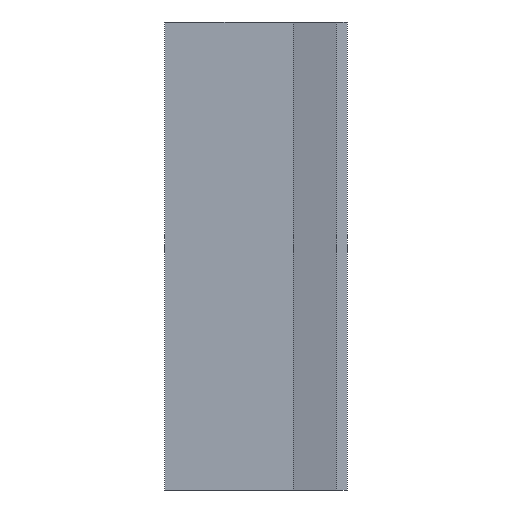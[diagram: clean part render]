
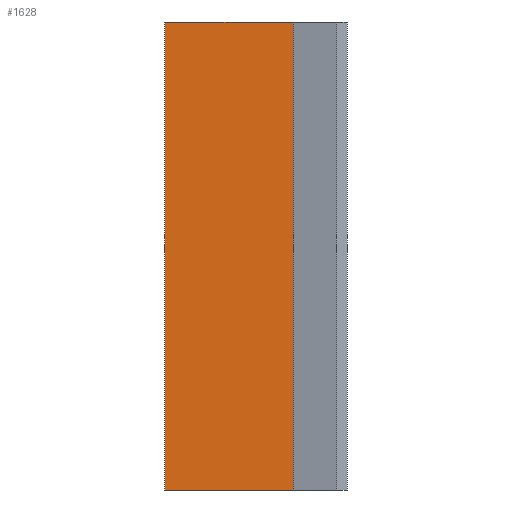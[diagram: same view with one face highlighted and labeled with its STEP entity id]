
A CAD part, left-side view. The second image highlights one B-rep face of the part: STEP entity #1628.
In plain terms, the highlighted planar face has unit normal (-1, 0, 0).
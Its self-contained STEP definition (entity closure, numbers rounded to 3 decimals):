
#90=FACE_OUTER_BOUND('',#171,.T.);
#171=EDGE_LOOP('',(#1369,#1370,#1371,#1372));
#336=LINE('',#2426,#564);
#374=LINE('',#2501,#602);
#396=LINE('',#2545,#624);
#397=LINE('',#2546,#625);
#564=VECTOR('',#1979,10.);
#602=VECTOR('',#2035,10.);
#624=VECTOR('',#2081,10.);
#625=VECTOR('',#2082,10.);
#745=VERTEX_POINT('',#2423);
#746=VERTEX_POINT('',#2425);
#774=VERTEX_POINT('',#2499);
#784=VERTEX_POINT('',#2544);
#944=EDGE_CURVE('',#745,#746,#336,.T.);
#982=EDGE_CURVE('',#746,#774,#374,.T.);
#1004=EDGE_CURVE('',#784,#745,#396,.T.);
#1005=EDGE_CURVE('',#774,#784,#397,.T.);
#1369=ORIENTED_EDGE('',*,*,#1004,.F.);
#1370=ORIENTED_EDGE('',*,*,#1005,.F.);
#1371=ORIENTED_EDGE('',*,*,#982,.F.);
#1372=ORIENTED_EDGE('',*,*,#944,.F.);
#1547=PLANE('',#1711);
#1628=ADVANCED_FACE('',(#90),#1547,.T.);
#1711=AXIS2_PLACEMENT_3D('',#2543,#2079,#2080);
#1979=DIRECTION('',(0.,-1.,0.));
#2035=DIRECTION('',(0.,0.,-1.));
#2079=DIRECTION('center_axis',(-1.,0.,0.));
#2080=DIRECTION('ref_axis',(0.,0.,1.));
#2081=DIRECTION('',(0.,0.,1.));
#2082=DIRECTION('',(0.,1.,0.));
#2423=CARTESIAN_POINT('',(-5.,5.5,20.));
#2425=CARTESIAN_POINT('',(-5.,0.,20.));
#2426=CARTESIAN_POINT('',(-5.,4.,20.));
#2499=CARTESIAN_POINT('',(-5.,0.,0.));
#2501=CARTESIAN_POINT('',(-5.,0.,9.75));
#2543=CARTESIAN_POINT('Origin',(-5.,5.5,10.5));
#2544=CARTESIAN_POINT('',(-5.,5.5,0.));
#2545=CARTESIAN_POINT('',(-5.,5.5,10.25));
#2546=CARTESIAN_POINT('',(-5.,1.5,0.));
